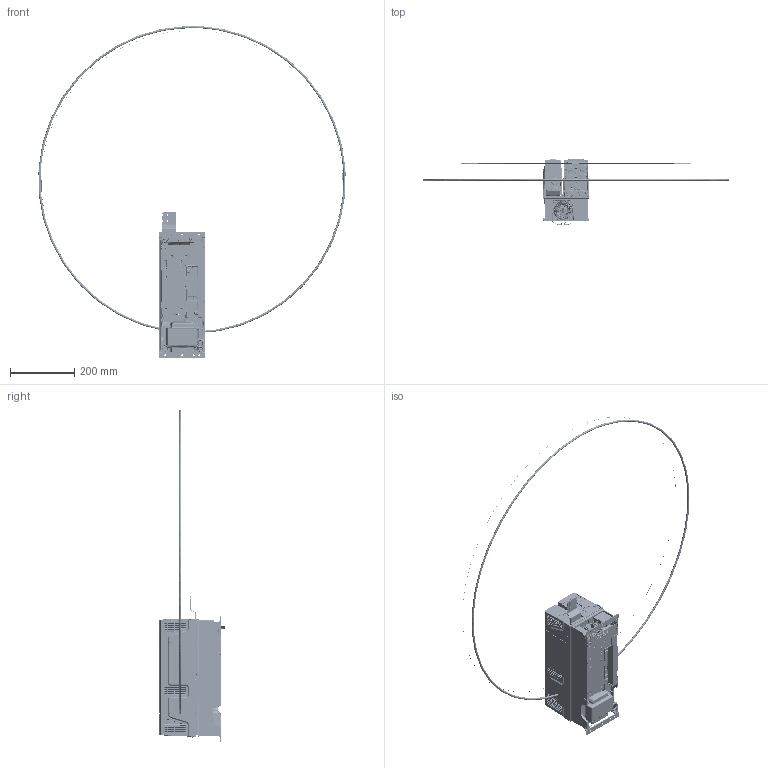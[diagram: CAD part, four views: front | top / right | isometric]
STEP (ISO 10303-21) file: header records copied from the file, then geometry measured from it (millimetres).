
FILE_DESCRIPTION((''),'2;1');
FILE_NAME('OUTER_SHRINKWRAP_SW0004','2014-02-20T',('jackne01'),(''),'PRO/ENGINEER BY PARAMETRIC TECHNOLOGY CORPORATION, 2011490','PRO/ENGINEER BY PARAMETRIC TECHNOLOGY CORPORATION, 2011490','');
FILE_SCHEMA(('CONFIG_CONTROL_DESIGN'));
Products named in the file (1): OUTER_SHRINKWRAP_SW0004
Bounding box: 953.58 x 203.55 x 1030.54 mm (x, y, z)
Surface area: 267573.3 mm2 (no closed solid volume)
Topology: 0 solids, 0 shells, 9518 faces, 73226 edges, 72812 vertices
Faces by surface type: bspline 9017, torus 436, sphere 65
Entity records: 1270139 total; most frequent: CARTESIAN_POINT 578683, DIRECTION 106705, TRIMMED_CURVE 98163, VECTOR 90623, LINE 90623, DEFINITIONAL_REPRESENTATION 74262, PCURVE 74262, COMPOSITE_CURVE_SEGMENT 74262
